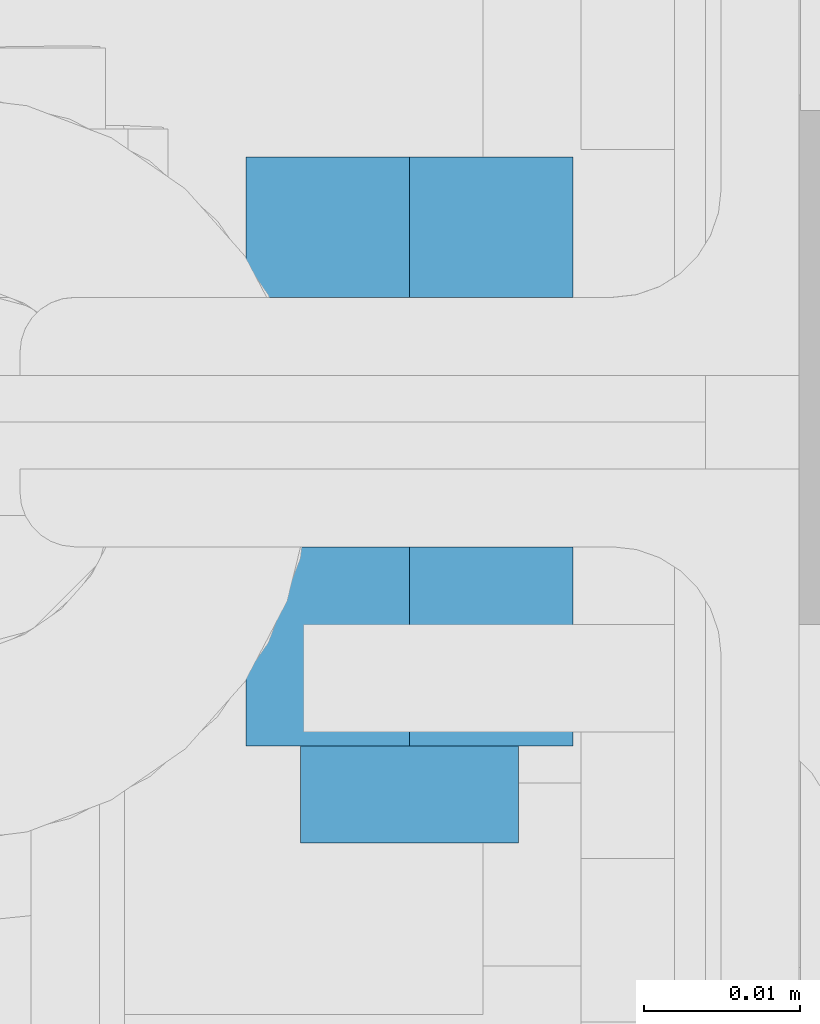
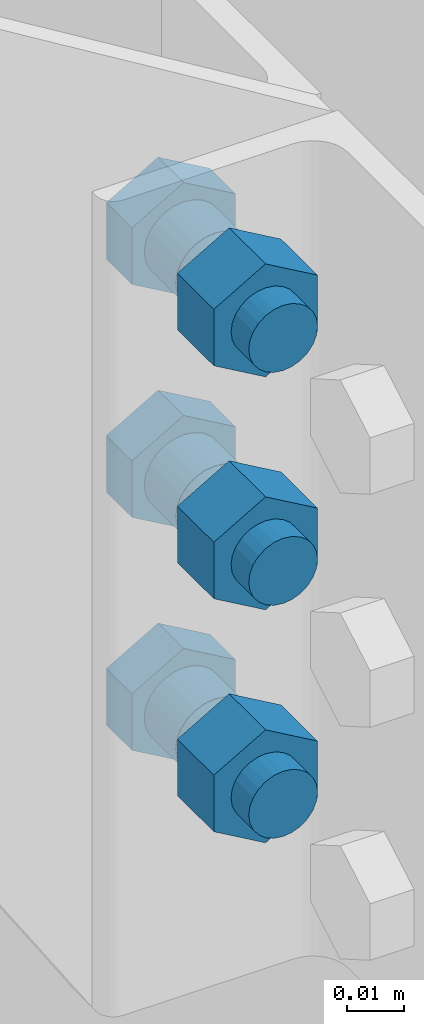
# One storey, part 13 of 21: 1 mechanical fastener.
"""IFC2X3 building model written with IfcOpenShell, lengths in millimetres."""

from ifc_helpers import new_model, si_unit, frame, origin_with_axes, place, context, project, spatial, faceted_brep, element, save


model = new_model("IFC2X3")

# Units and contexts
model_context_1 = context("Model", 3, precision=1e-05, world=origin_with_axes(), identifier="Body")
model_context_2 = context("Model", 3, precision=1e-05, world=origin_with_axes())
ifc_project = project(units=[si_unit("LENGTHUNIT", "METRE", prefix="MILLI"), si_unit("AREAUNIT", "SQUARE_METRE"), si_unit("VOLUMEUNIT", "CUBIC_METRE"), si_unit("MASSUNIT", "GRAM", prefix="KILO"), si_unit("TIMEUNIT", "SECOND"), si_unit("PLANEANGLEUNIT", "RADIAN"), si_unit("SOLIDANGLEUNIT", "STERADIAN"), si_unit("THERMODYNAMICTEMPERATUREUNIT", "DEGREE_CELSIUS"), si_unit("LUMINOUSINTENSITYUNIT", "LUMEN")], contexts=[model_context_1, model_context_2])

# Site, building, storey
site_placement = place(None, origin_with_axes())
site = spatial("IfcSite", under=ifc_project, at=site_placement, Name="Undefined", CompositionType="ELEMENT")
building_placement = place(site_placement, origin_with_axes())
building = spatial("IfcBuilding", under=site, at=building_placement, Name="Undefined", CompositionType="ELEMENT")
storey_placement = place(building_placement, origin_with_axes())
storey = spatial("IfcBuildingStorey", under=building, at=storey_placement, Name="Undefined", CompositionType="ELEMENT")

# Mechanical fastener
mechanical_fastener_placement = place(storey_placement, frame((-29.700001, -44.002519, 94.970416), z_axis=(-1.0, 0.0, 4.8148249e-35), x_axis=(1.2899234e-13, 3.1900003e-05, -1.0)))
element("IfcMechanicalFastener", 1, at=mechanical_fastener_placement, inside=storey, Name="Bolt assembly", NominalDiameter=14.0, NominalLength=35.0, context=model_context_1, shape_type="Brep", body=[
    faceted_brep([(12.124356, 10.997454, 0.0), (6.0621778, 10.997454, 10.5), (-6.0621778, 10.997454, 10.5), (-12.124356, 10.997454, 0.0), (-6.0621778, 10.997454, -10.5), (6.0621778, 10.997454, -10.5), (6.0621778, 19.997454, -10.5), (-6.0621778, 19.997454, -10.5), (-12.124356, 19.997454, 0.0), (-6.0621778, 19.997454, 10.5), (6.0621778, 19.997454, 10.5), (12.124356, 19.997454, 0.0), (7.0, 19.997454, 0.0), (6.7614808, 19.997454, 1.8117333), (6.0621778, 19.997454, 3.5), (4.9497475, 19.997454, 4.9497475), (3.5, 19.997454, 6.0621778), (1.8117333, 19.997454, 6.7614808), (-7.2543519e-13, 19.997454, 7.0), (-1.8117333, 19.997454, 6.7614808), (-3.5, 19.997454, 6.0621778), (-4.9497475, 19.997454, 4.9497475), (-6.0621778, 19.997454, 3.5), (-6.7614808, 19.997454, 1.8117333), (-7.0, 19.997454, -1.4508704e-12), (-6.7614808, 19.997454, -1.8117333), (-6.0621778, 19.997454, -3.5), (-4.9497475, 19.997454, -4.9497475), (-3.5, 19.997454, -6.0621778), (-1.8117333, 19.997454, -6.7614808), (2.168534e-12, 19.997454, -7.0), (1.8117333, 19.997454, -6.7614808), (3.5, 19.997454, -6.0621778), (4.9497475, 19.997454, -4.9497475), (6.0621778, 19.997454, -3.5), (6.7614808, 19.997454, -1.8117333), (6.7614808, 54.997454, -1.8117333), (6.0621778, 54.997454, -3.5), (4.9497475, 54.997454, -4.9497475), (3.5, 54.997454, -6.0621778), (1.8117333, 54.997454, -6.7614808), (2.168534e-12, 54.997454, -7.0), (-1.8117333, 54.997454, -6.7614808), (-3.5, 54.997454, -6.0621778), (-4.9497475, 54.997454, -4.9497475), (-6.0621778, 54.997454, -3.5), (-6.7614808, 54.997454, -1.8117333), (-7.0, 54.997454, -1.4508704e-12), (-6.7614808, 54.997454, 1.8117333), (-6.0621778, 54.997454, 3.5), (-4.9497475, 54.997454, 4.9497475), (-3.5, 54.997454, 6.0621778), (-1.8117333, 54.997454, 6.7614808), (-7.2543519e-13, 54.997454, 7.0), (1.8117333, 54.997454, 6.7614808), (3.5, 54.997454, 6.0621778), (4.9497475, 54.997454, 4.9497475), (6.0621778, 54.997454, 3.5), (6.7614808, 54.997454, 1.8117333), (7.0, 54.997454, 0.0), (12.124356, 35.997453, 0.0), (6.0621778, 35.997453, 10.5), (-6.0621778, 35.997453, 10.5), (-12.124356, 35.997453, 0.0), (-6.0621778, 35.997453, -10.5), (6.0621778, 35.997453, -10.5), (6.0621778, 48.797454, -10.5), (-6.0621778, 48.797454, -10.5), (-12.124356, 48.797454, 0.0), (-6.0621778, 48.797454, 10.5), (6.0621778, 48.797454, 10.5), (12.124356, 48.797454, 0.0), (62.124356, 10.997454, 0.0), (56.062178, 10.997454, 10.5), (43.937822, 10.997454, 10.5), (37.875644, 10.997454, 0.0), (43.937822, 10.997454, -10.5), (56.062178, 10.997454, -10.5), (56.062178, 19.997454, -10.5), (43.937822, 19.997454, -10.5), (37.875644, 19.997454, 0.0), (43.937822, 19.997454, 10.5), (56.062178, 19.997454, 10.5), (62.124356, 19.997454, 0.0), (57.0, 19.997454, 0.0), (56.761481, 19.997454, 1.8117333), (56.062178, 19.997454, 3.5), (54.949747, 19.997454, 4.9497475), (53.5, 19.997454, 6.0621778), (51.811733, 19.997454, 6.7614808), (50.0, 19.997454, 7.0), (48.188267, 19.997454, 6.7614808), (46.5, 19.997454, 6.0621778), (45.050253, 19.997454, 4.9497475), (43.937822, 19.997454, 3.5), (43.238519, 19.997454, 1.8117333), (43.0, 19.997454, -1.4508704e-12), (43.238519, 19.997454, -1.8117333), (43.937822, 19.997454, -3.5), (45.050253, 19.997454, -4.9497475), (46.5, 19.997454, -6.0621778), (48.188267, 19.997454, -6.7614808), (50.0, 19.997454, -7.0), (51.811733, 19.997454, -6.7614808), (53.5, 19.997454, -6.0621778), (54.949747, 19.997454, -4.9497475), (56.062178, 19.997454, -3.5), (56.761481, 19.997454, -1.8117333), (56.761481, 54.997454, -1.8117333), (56.062178, 54.997454, -3.5), (54.949747, 54.997454, -4.9497475), (53.5, 54.997454, -6.0621778), (51.811733, 54.997454, -6.7614808), (50.0, 54.997454, -7.0), (48.188267, 54.997454, -6.7614808), (46.5, 54.997454, -6.0621778), (45.050253, 54.997454, -4.9497475), (43.937822, 54.997454, -3.5), (43.238519, 54.997454, -1.8117333), (43.0, 54.997454, -1.4508704e-12), (43.238519, 54.997454, 1.8117333), (43.937822, 54.997454, 3.5), (45.050253, 54.997454, 4.9497475), (46.5, 54.997454, 6.0621778), (48.188267, 54.997454, 6.7614808), (50.0, 54.997454, 7.0), (51.811733, 54.997454, 6.7614808), (53.5, 54.997454, 6.0621778), (54.949747, 54.997454, 4.9497475), (56.062178, 54.997454, 3.5), (56.761481, 54.997454, 1.8117333), (57.0, 54.997454, 0.0), (62.124356, 35.997453, 0.0), (56.062178, 35.997453, 10.5), (43.937822, 35.997453, 10.5), (37.875644, 35.997453, 0.0), (43.937822, 35.997453, -10.5), (56.062178, 35.997453, -10.5), (56.062178, 48.797454, -10.5), (43.937822, 48.797454, -10.5), (37.875644, 48.797454, 0.0), (43.937822, 48.797454, 10.5), (56.062178, 48.797454, 10.5), (62.124356, 48.797454, 0.0), (112.12436, 10.997454, 0.0), (106.06218, 10.997454, 10.5), (93.937822, 10.997454, 10.5), (87.875644, 10.997454, 0.0), (93.937822, 10.997454, -10.5), (106.06218, 10.997454, -10.5), (106.06218, 19.997454, -10.5), (93.937822, 19.997454, -10.5), (87.875644, 19.997454, 0.0), (93.937822, 19.997454, 10.5), (106.06218, 19.997454, 10.5), (112.12436, 19.997454, 0.0), (107.0, 19.997454, 0.0), (106.76148, 19.997454, 1.8117333), (106.06218, 19.997454, 3.5), (104.94975, 19.997454, 4.9497475), (103.5, 19.997454, 6.0621778), (101.81173, 19.997454, 6.7614808), (100.0, 19.997454, 7.0), (98.188267, 19.997454, 6.7614808), (96.5, 19.997454, 6.0621778), (95.050253, 19.997454, 4.9497475), (93.937822, 19.997454, 3.5), (93.238519, 19.997454, 1.8117333), (93.0, 19.997454, -1.4508704e-12), (93.238519, 19.997454, -1.8117333), (93.937822, 19.997454, -3.5), (95.050253, 19.997454, -4.9497475), (96.5, 19.997454, -6.0621778), (98.188267, 19.997454, -6.7614808), (100.0, 19.997454, -7.0), (101.81173, 19.997454, -6.7614808), (103.5, 19.997454, -6.0621778), (104.94975, 19.997454, -4.9497475), (106.06218, 19.997454, -3.5), (106.76148, 19.997454, -1.8117333), (106.76148, 54.997454, -1.8117333), (106.06218, 54.997454, -3.5), (104.94975, 54.997454, -4.9497475), (103.5, 54.997454, -6.0621778), (101.81173, 54.997454, -6.7614808), (100.0, 54.997454, -7.0), (98.188267, 54.997454, -6.7614808), (96.5, 54.997454, -6.0621778), (95.050253, 54.997454, -4.9497475), (93.937822, 54.997454, -3.5), (93.238519, 54.997454, -1.8117333), (93.0, 54.997454, -1.4508704e-12), (93.238519, 54.997454, 1.8117333), (93.937822, 54.997454, 3.5), (95.050253, 54.997454, 4.9497475), (96.5, 54.997454, 6.0621778), (98.188267, 54.997454, 6.7614808), (100.0, 54.997454, 7.0), (101.81173, 54.997454, 6.7614808), (103.5, 54.997454, 6.0621778), (104.94975, 54.997454, 4.9497475), (106.06218, 54.997454, 3.5), (106.76148, 54.997454, 1.8117333), (107.0, 54.997454, 0.0), (112.12436, 35.997453, 0.0), (106.06218, 35.997453, 10.5), (93.937822, 35.997453, 10.5), (87.875644, 35.997453, 0.0), (93.937822, 35.997453, -10.5), (106.06218, 35.997453, -10.5), (106.06218, 48.797454, -10.5), (93.937822, 48.797454, -10.5), (87.875644, 48.797454, 0.0), (93.937822, 48.797454, 10.5), (106.06218, 48.797454, 10.5), (112.12436, 48.797454, 0.0)], [[[0, 1, 2, 3, 4, 5]], [[6, 7, 8, 9, 10, 11]], [[0, 11, 10, 1]], [[1, 10, 9, 2]], [[2, 9, 8, 3]], [[3, 8, 7, 4]], [[4, 7, 6, 5]], [[5, 6, 11, 0]], [[12, 13, 14, 15, 16, 17, 18, 19, 20, 21, 22, 23, 24, 25, 26, 27, 28, 29, 30, 31, 32, 33, 34, 35]], [[36, 37, 38, 39, 40, 41, 42, 43, 44, 45, 46, 47, 48, 49, 50, 51, 52, 53, 54, 55, 56, 57, 58, 59]], [[12, 59, 58, 13]], [[13, 58, 57, 14]], [[14, 57, 56, 15]], [[15, 56, 55, 16]], [[16, 55, 54, 17]], [[17, 54, 53, 18]], [[18, 53, 52, 19]], [[19, 52, 51, 20]], [[20, 51, 50, 21]], [[21, 50, 49, 22]], [[22, 49, 48, 23]], [[23, 48, 47, 24]], [[24, 47, 46, 25]], [[25, 46, 45, 26]], [[26, 45, 44, 27]], [[27, 44, 43, 28]], [[28, 43, 42, 29]], [[29, 42, 41, 30]], [[30, 41, 40, 31]], [[31, 40, 39, 32]], [[32, 39, 38, 33]], [[33, 38, 37, 34]], [[34, 37, 36, 35]], [[35, 36, 59, 12]], [[60, 61, 62, 63, 64, 65]], [[66, 67, 68, 69, 70, 71]], [[60, 71, 70, 61]], [[61, 70, 69, 62]], [[62, 69, 68, 63]], [[63, 68, 67, 64]], [[64, 67, 66, 65]], [[65, 66, 71, 60]], [[72, 73, 74, 75, 76, 77]], [[78, 79, 80, 81, 82, 83]], [[72, 83, 82, 73]], [[73, 82, 81, 74]], [[74, 81, 80, 75]], [[75, 80, 79, 76]], [[76, 79, 78, 77]], [[77, 78, 83, 72]], [[84, 85, 86, 87, 88, 89, 90, 91, 92, 93, 94, 95, 96, 97, 98, 99, 100, 101, 102, 103, 104, 105, 106, 107]], [[108, 109, 110, 111, 112, 113, 114, 115, 116, 117, 118, 119, 120, 121, 122, 123, 124, 125, 126, 127, 128, 129, 130, 131]], [[84, 131, 130, 85]], [[85, 130, 129, 86]], [[86, 129, 128, 87]], [[87, 128, 127, 88]], [[88, 127, 126, 89]], [[89, 126, 125, 90]], [[90, 125, 124, 91]], [[91, 124, 123, 92]], [[92, 123, 122, 93]], [[93, 122, 121, 94]], [[94, 121, 120, 95]], [[95, 120, 119, 96]], [[96, 119, 118, 97]], [[97, 118, 117, 98]], [[98, 117, 116, 99]], [[99, 116, 115, 100]], [[100, 115, 114, 101]], [[101, 114, 113, 102]], [[102, 113, 112, 103]], [[103, 112, 111, 104]], [[104, 111, 110, 105]], [[105, 110, 109, 106]], [[106, 109, 108, 107]], [[107, 108, 131, 84]], [[132, 133, 134, 135, 136, 137]], [[138, 139, 140, 141, 142, 143]], [[132, 143, 142, 133]], [[133, 142, 141, 134]], [[134, 141, 140, 135]], [[135, 140, 139, 136]], [[136, 139, 138, 137]], [[137, 138, 143, 132]], [[144, 145, 146, 147, 148, 149]], [[150, 151, 152, 153, 154, 155]], [[144, 155, 154, 145]], [[145, 154, 153, 146]], [[146, 153, 152, 147]], [[147, 152, 151, 148]], [[148, 151, 150, 149]], [[149, 150, 155, 144]], [[156, 157, 158, 159, 160, 161, 162, 163, 164, 165, 166, 167, 168, 169, 170, 171, 172, 173, 174, 175, 176, 177, 178, 179]], [[180, 181, 182, 183, 184, 185, 186, 187, 188, 189, 190, 191, 192, 193, 194, 195, 196, 197, 198, 199, 200, 201, 202, 203]], [[156, 203, 202, 157]], [[157, 202, 201, 158]], [[158, 201, 200, 159]], [[159, 200, 199, 160]], [[160, 199, 198, 161]], [[161, 198, 197, 162]], [[162, 197, 196, 163]], [[163, 196, 195, 164]], [[164, 195, 194, 165]], [[165, 194, 193, 166]], [[166, 193, 192, 167]], [[167, 192, 191, 168]], [[168, 191, 190, 169]], [[169, 190, 189, 170]], [[170, 189, 188, 171]], [[171, 188, 187, 172]], [[172, 187, 186, 173]], [[173, 186, 185, 174]], [[174, 185, 184, 175]], [[175, 184, 183, 176]], [[176, 183, 182, 177]], [[177, 182, 181, 178]], [[178, 181, 180, 179]], [[179, 180, 203, 156]], [[204, 205, 206, 207, 208, 209]], [[210, 211, 212, 213, 214, 215]], [[204, 215, 214, 205]], [[205, 214, 213, 206]], [[206, 213, 212, 207]], [[207, 212, 211, 208]], [[208, 211, 210, 209]], [[209, 210, 215, 204]]]),
    faceted_brep([(8.0, 24.997485, 0.0), (7.7274066, 24.997485, 2.0705524), (6.9282032, 24.997485, 4.0), (5.6568542, 24.997485, 5.6568542), (4.0, 24.997485, 6.9282032), (2.0705524, 24.997485, 7.7274066), (-8.2906879e-13, 24.997485, 8.0), (-2.0705524, 24.997485, 7.7274066), (-4.0, 24.997485, 6.9282032), (-5.6568542, 24.997485, 5.6568542), (-6.9282032, 24.997485, 4.0), (-7.7274066, 24.997485, 2.0705524), (-8.0, 24.997485, -1.6581376e-12), (-7.7274066, 24.997485, -2.0705524), (-6.9282032, 24.997485, -4.0), (-5.6568542, 24.997485, -5.6568542), (-4.0, 24.997485, -6.9282032), (-2.0705524, 24.997485, -7.7274066), (2.4783246e-12, 24.997485, -8.0), (2.0705524, 24.997485, -7.7274066), (4.0, 24.997485, -6.9282032), (5.6568542, 24.997485, -5.6568542), (6.9282032, 24.997485, -4.0), (7.7274066, 24.997485, -2.0705524), (7.7274066, 30.997485, -2.0705524), (6.9282032, 30.997485, -4.0), (5.6568542, 30.997485, -5.6568542), (4.0, 30.997485, -6.9282032), (2.0705524, 30.997485, -7.7274066), (2.4783246e-12, 30.997485, -8.0), (-2.0705524, 30.997485, -7.7274066), (-4.0, 30.997485, -6.9282032), (-5.6568542, 30.997485, -5.6568542), (-6.9282032, 30.997485, -4.0), (-7.7274066, 30.997485, -2.0705524), (-8.0, 30.997485, -1.6581376e-12), (-7.7274066, 30.997485, 2.0705524), (-6.9282032, 30.997485, 4.0), (-5.6568542, 30.997485, 5.6568542), (-4.0, 30.997485, 6.9282032), (-2.0705524, 30.997485, 7.7274066), (-8.2906879e-13, 30.997485, 8.0), (2.0705524, 30.997485, 7.7274066), (4.0, 30.997485, 6.9282032), (5.6568542, 30.997485, 5.6568542), (6.9282032, 30.997485, 4.0), (7.7274066, 30.997485, 2.0705524), (8.0, 30.997485, 0.0), (8.0, 31.097453, 0.0), (7.7274066, 31.097453, 2.0705524), (6.9282032, 31.097453, 4.0), (5.6568542, 31.097453, 5.6568542), (4.0, 31.097453, 6.9282032), (2.0705524, 31.097453, 7.7274066), (-8.2906879e-13, 31.097453, 8.0), (-2.0705524, 31.097453, 7.7274066), (-4.0, 31.097453, 6.9282032), (-5.6568542, 31.097453, 5.6568542), (-6.9282032, 31.097453, 4.0), (-7.7274066, 31.097453, 2.0705524), (-8.0, 31.097453, -1.6581376e-12), (-7.7274066, 31.097453, -2.0705524), (-6.9282032, 31.097453, -4.0), (-5.6568542, 31.097453, -5.6568542), (-4.0, 31.097453, -6.9282032), (-2.0705524, 31.097453, -7.7274066), (2.4783246e-12, 31.097453, -8.0), (2.0705524, 31.097453, -7.7274066), (4.0, 31.097453, -6.9282032), (5.6568542, 31.097453, -5.6568542), (6.9282032, 31.097453, -4.0), (7.7274066, 31.097453, -2.0705524), (7.7274066, 36.097453, -2.0705524), (6.9282032, 36.097453, -4.0), (5.6568542, 36.097453, -5.6568542), (4.0, 36.097453, -6.9282032), (2.0705524, 36.097453, -7.7274066), (2.4783246e-12, 36.097453, -8.0), (-2.0705524, 36.097453, -7.7274066), (-4.0, 36.097453, -6.9282032), (-5.6568542, 36.097453, -5.6568542), (-6.9282032, 36.097453, -4.0), (-7.7274066, 36.097453, -2.0705524), (-8.0, 36.097453, -1.6581376e-12), (-7.7274066, 36.097453, 2.0705524), (-6.9282032, 36.097453, 4.0), (-5.6568542, 36.097453, 5.6568542), (-4.0, 36.097453, 6.9282032), (-2.0705524, 36.097453, 7.7274066), (-8.2906879e-13, 36.097453, 8.0), (2.0705524, 36.097453, 7.7274066), (4.0, 36.097453, 6.9282032), (5.6568542, 36.097453, 5.6568542), (6.9282032, 36.097453, 4.0), (7.7274066, 36.097453, 2.0705524), (8.0, 36.097453, 0.0), (8.0, 19.897454, 0.0), (7.7274066, 19.897454, 2.0705524), (6.9282032, 19.897454, 4.0), (5.6568542, 19.897454, 5.6568542), (4.0, 19.897454, 6.9282032), (2.0705524, 19.897454, 7.7274066), (-8.2906879e-13, 19.897454, 8.0), (-2.0705524, 19.897454, 7.7274066), (-4.0, 19.897454, 6.9282032), (-5.6568542, 19.897454, 5.6568542), (-6.9282032, 19.897454, 4.0), (-7.7274066, 19.897454, 2.0705524), (-8.0, 19.897454, -1.6581376e-12), (-7.7274066, 19.897454, -2.0705524), (-6.9282032, 19.897454, -4.0), (-5.6568542, 19.897454, -5.6568542), (-4.0, 19.897454, -6.9282032), (-2.0705524, 19.897454, -7.7274066), (2.4783246e-12, 19.897454, -8.0), (2.0705524, 19.897454, -7.7274066), (4.0, 19.897454, -6.9282032), (5.6568542, 19.897454, -5.6568542), (6.9282032, 19.897454, -4.0), (7.7274066, 19.897454, -2.0705524), (7.7274066, 24.997454, -2.0705524), (6.9282032, 24.997454, -4.0), (5.6568542, 24.997454, -5.6568542), (4.0, 24.997454, -6.9282032), (2.0705524, 24.997454, -7.7274066), (2.4783246e-12, 24.997454, -8.0), (-2.0705524, 24.997454, -7.7274066), (-4.0, 24.997454, -6.9282032), (-5.6568542, 24.997454, -5.6568542), (-6.9282032, 24.997454, -4.0), (-7.7274066, 24.997454, -2.0705524), (-8.0, 24.997454, -1.6581376e-12), (-7.7274066, 24.997454, 2.0705524), (-6.9282032, 24.997454, 4.0), (-5.6568542, 24.997454, 5.6568542), (-4.0, 24.997454, 6.9282032), (-2.0705524, 24.997454, 7.7274066), (-8.2906879e-13, 24.997454, 8.0), (2.0705524, 24.997454, 7.7274066), (4.0, 24.997454, 6.9282032), (5.6568542, 24.997454, 5.6568542), (6.9282032, 24.997454, 4.0), (7.7274066, 24.997454, 2.0705524), (8.0, 24.997454, 0.0), (58.0, 24.997485, 0.0), (57.727407, 24.997485, 2.0705524), (56.928203, 24.997485, 4.0), (55.656854, 24.997485, 5.6568542), (54.0, 24.997485, 6.9282032), (52.070552, 24.997485, 7.7274066), (50.0, 24.997485, 8.0), (47.929448, 24.997485, 7.7274066), (46.0, 24.997485, 6.9282032), (44.343146, 24.997485, 5.6568542), (43.071797, 24.997485, 4.0), (42.272593, 24.997485, 2.0705524), (42.0, 24.997485, -1.6581376e-12), (42.272593, 24.997485, -2.0705524), (43.071797, 24.997485, -4.0), (44.343146, 24.997485, -5.6568542), (46.0, 24.997485, -6.9282032), (47.929448, 24.997485, -7.7274066), (50.0, 24.997485, -8.0), (52.070552, 24.997485, -7.7274066), (54.0, 24.997485, -6.9282032), (55.656854, 24.997485, -5.6568542), (56.928203, 24.997485, -4.0), (57.727407, 24.997485, -2.0705524), (57.727407, 30.997485, -2.0705524), (56.928203, 30.997485, -4.0), (55.656854, 30.997485, -5.6568542), (54.0, 30.997485, -6.9282032), (52.070552, 30.997485, -7.7274066), (50.0, 30.997485, -8.0), (47.929448, 30.997485, -7.7274066), (46.0, 30.997485, -6.9282032), (44.343146, 30.997485, -5.6568542), (43.071797, 30.997485, -4.0), (42.272593, 30.997485, -2.0705524), (42.0, 30.997485, -1.6581376e-12), (42.272593, 30.997485, 2.0705524), (43.071797, 30.997485, 4.0), (44.343146, 30.997485, 5.6568542), (46.0, 30.997485, 6.9282032), (47.929448, 30.997485, 7.7274066), (50.0, 30.997485, 8.0), (52.070552, 30.997485, 7.7274066), (54.0, 30.997485, 6.9282032), (55.656854, 30.997485, 5.6568542), (56.928203, 30.997485, 4.0), (57.727407, 30.997485, 2.0705524), (58.0, 30.997485, 0.0), (58.0, 31.097453, 0.0), (57.727407, 31.097453, 2.0705524), (56.928203, 31.097453, 4.0), (55.656854, 31.097453, 5.6568542), (54.0, 31.097453, 6.9282032), (52.070552, 31.097453, 7.7274066), (50.0, 31.097453, 8.0), (47.929448, 31.097453, 7.7274066), (46.0, 31.097453, 6.9282032), (44.343146, 31.097453, 5.6568542), (43.071797, 31.097453, 4.0), (42.272593, 31.097453, 2.0705524), (42.0, 31.097453, -1.6581376e-12), (42.272593, 31.097453, -2.0705524), (43.071797, 31.097453, -4.0), (44.343146, 31.097453, -5.6568542), (46.0, 31.097453, -6.9282032), (47.929448, 31.097453, -7.7274066), (50.0, 31.097453, -8.0), (52.070552, 31.097453, -7.7274066), (54.0, 31.097453, -6.9282032), (55.656854, 31.097453, -5.6568542), (56.928203, 31.097453, -4.0), (57.727407, 31.097453, -2.0705524), (57.727407, 36.097453, -2.0705524), (56.928203, 36.097453, -4.0), (55.656854, 36.097453, -5.6568542), (54.0, 36.097453, -6.9282032), (52.070552, 36.097453, -7.7274066), (50.0, 36.097453, -8.0), (47.929448, 36.097453, -7.7274066), (46.0, 36.097453, -6.9282032), (44.343146, 36.097453, -5.6568542), (43.071797, 36.097453, -4.0), (42.272593, 36.097453, -2.0705524), (42.0, 36.097453, -1.6581376e-12), (42.272593, 36.097453, 2.0705524), (43.071797, 36.097453, 4.0), (44.343146, 36.097453, 5.6568542), (46.0, 36.097453, 6.9282032), (47.929448, 36.097453, 7.7274066), (50.0, 36.097453, 8.0), (52.070552, 36.097453, 7.7274066), (54.0, 36.097453, 6.9282032), (55.656854, 36.097453, 5.6568542), (56.928203, 36.097453, 4.0), (57.727407, 36.097453, 2.0705524), (58.0, 36.097453, 0.0), (58.0, 19.897454, 0.0), (57.727407, 19.897454, 2.0705524), (56.928203, 19.897454, 4.0), (55.656854, 19.897454, 5.6568542), (54.0, 19.897454, 6.9282032), (52.070552, 19.897454, 7.7274066), (50.0, 19.897454, 8.0), (47.929448, 19.897454, 7.7274066), (46.0, 19.897454, 6.9282032), (44.343146, 19.897454, 5.6568542), (43.071797, 19.897454, 4.0), (42.272593, 19.897454, 2.0705524), (42.0, 19.897454, -1.6581376e-12), (42.272593, 19.897454, -2.0705524), (43.071797, 19.897454, -4.0), (44.343146, 19.897454, -5.6568542), (46.0, 19.897454, -6.9282032), (47.929448, 19.897454, -7.7274066), (50.0, 19.897454, -8.0), (52.070552, 19.897454, -7.7274066), (54.0, 19.897454, -6.9282032), (55.656854, 19.897454, -5.6568542), (56.928203, 19.897454, -4.0), (57.727407, 19.897454, -2.0705524), (57.727407, 24.997454, -2.0705524), (56.928203, 24.997454, -4.0), (55.656854, 24.997454, -5.6568542), (54.0, 24.997454, -6.9282032), (52.070552, 24.997454, -7.7274066), (50.0, 24.997454, -8.0), (47.929448, 24.997454, -7.7274066), (46.0, 24.997454, -6.9282032), (44.343146, 24.997454, -5.6568542), (43.071797, 24.997454, -4.0), (42.272593, 24.997454, -2.0705524), (42.0, 24.997454, -1.6581376e-12), (42.272593, 24.997454, 2.0705524), (43.071797, 24.997454, 4.0), (44.343146, 24.997454, 5.6568542), (46.0, 24.997454, 6.9282032), (47.929448, 24.997454, 7.7274066), (50.0, 24.997454, 8.0), (52.070552, 24.997454, 7.7274066), (54.0, 24.997454, 6.9282032), (55.656854, 24.997454, 5.6568542), (56.928203, 24.997454, 4.0), (57.727407, 24.997454, 2.0705524), (58.0, 24.997454, 0.0), (108.0, 24.997485, 0.0), (107.72741, 24.997485, 2.0705524), (106.9282, 24.997485, 4.0), (105.65685, 24.997485, 5.6568542), (104.0, 24.997485, 6.9282032), (102.07055, 24.997485, 7.7274066), (100.0, 24.997485, 8.0), (97.929448, 24.997485, 7.7274066), (96.0, 24.997485, 6.9282032), (94.343146, 24.997485, 5.6568542), (93.071797, 24.997485, 4.0), (92.272593, 24.997485, 2.0705524), (92.0, 24.997485, -1.6581376e-12), (92.272593, 24.997485, -2.0705524), (93.071797, 24.997485, -4.0), (94.343146, 24.997485, -5.6568542), (96.0, 24.997485, -6.9282032), (97.929448, 24.997485, -7.7274066), (100.0, 24.997485, -8.0), (102.07055, 24.997485, -7.7274066), (104.0, 24.997485, -6.9282032), (105.65685, 24.997485, -5.6568542), (106.9282, 24.997485, -4.0), (107.72741, 24.997485, -2.0705524), (107.72741, 30.997485, -2.0705524), (106.9282, 30.997485, -4.0), (105.65685, 30.997485, -5.6568542), (104.0, 30.997485, -6.9282032), (102.07055, 30.997485, -7.7274066), (100.0, 30.997485, -8.0), (97.929448, 30.997485, -7.7274066), (96.0, 30.997485, -6.9282032), (94.343146, 30.997485, -5.6568542), (93.071797, 30.997485, -4.0), (92.272593, 30.997485, -2.0705524), (92.0, 30.997485, -1.6581376e-12), (92.272593, 30.997485, 2.0705524), (93.071797, 30.997485, 4.0), (94.343146, 30.997485, 5.6568542), (96.0, 30.997485, 6.9282032), (97.929448, 30.997485, 7.7274066), (100.0, 30.997485, 8.0), (102.07055, 30.997485, 7.7274066), (104.0, 30.997485, 6.9282032), (105.65685, 30.997485, 5.6568542), (106.9282, 30.997485, 4.0), (107.72741, 30.997485, 2.0705524), (108.0, 30.997485, 0.0), (108.0, 31.097453, 0.0), (107.72741, 31.097453, 2.0705524), (106.9282, 31.097453, 4.0), (105.65685, 31.097453, 5.6568542), (104.0, 31.097453, 6.9282032), (102.07055, 31.097453, 7.7274066), (100.0, 31.097453, 8.0), (97.929448, 31.097453, 7.7274066), (96.0, 31.097453, 6.9282032), (94.343146, 31.097453, 5.6568542), (93.071797, 31.097453, 4.0), (92.272593, 31.097453, 2.0705524), (92.0, 31.097453, -1.6581376e-12), (92.272593, 31.097453, -2.0705524), (93.071797, 31.097453, -4.0), (94.343146, 31.097453, -5.6568542), (96.0, 31.097453, -6.9282032), (97.929448, 31.097453, -7.7274066), (100.0, 31.097453, -8.0), (102.07055, 31.097453, -7.7274066), (104.0, 31.097453, -6.9282032), (105.65685, 31.097453, -5.6568542), (106.9282, 31.097453, -4.0), (107.72741, 31.097453, -2.0705524), (107.72741, 36.097453, -2.0705524), (106.9282, 36.097453, -4.0), (105.65685, 36.097453, -5.6568542), (104.0, 36.097453, -6.9282032), (102.07055, 36.097453, -7.7274066), (100.0, 36.097453, -8.0), (97.929448, 36.097453, -7.7274066), (96.0, 36.097453, -6.9282032), (94.343146, 36.097453, -5.6568542), (93.071797, 36.097453, -4.0), (92.272593, 36.097453, -2.0705524), (92.0, 36.097453, -1.6581376e-12), (92.272593, 36.097453, 2.0705524), (93.071797, 36.097453, 4.0), (94.343146, 36.097453, 5.6568542), (96.0, 36.097453, 6.9282032), (97.929448, 36.097453, 7.7274066), (100.0, 36.097453, 8.0), (102.07055, 36.097453, 7.7274066), (104.0, 36.097453, 6.9282032), (105.65685, 36.097453, 5.6568542), (106.9282, 36.097453, 4.0), (107.72741, 36.097453, 2.0705524), (108.0, 36.097453, 0.0), (108.0, 19.897454, 0.0), (107.72741, 19.897454, 2.0705524), (106.9282, 19.897454, 4.0), (105.65685, 19.897454, 5.6568542), (104.0, 19.897454, 6.9282032), (102.07055, 19.897454, 7.7274066), (100.0, 19.897454, 8.0), (97.929448, 19.897454, 7.7274066), (96.0, 19.897454, 6.9282032), (94.343146, 19.897454, 5.6568542), (93.071797, 19.897454, 4.0), (92.272593, 19.897454, 2.0705524), (92.0, 19.897454, -1.6581376e-12), (92.272593, 19.897454, -2.0705524), (93.071797, 19.897454, -4.0), (94.343146, 19.897454, -5.6568542), (96.0, 19.897454, -6.9282032), (97.929448, 19.897454, -7.7274066), (100.0, 19.897454, -8.0), (102.07055, 19.897454, -7.7274066), (104.0, 19.897454, -6.9282032), (105.65685, 19.897454, -5.6568542), (106.9282, 19.897454, -4.0), (107.72741, 19.897454, -2.0705524), (107.72741, 24.997454, -2.0705524), (106.9282, 24.997454, -4.0), (105.65685, 24.997454, -5.6568542), (104.0, 24.997454, -6.9282032), (102.07055, 24.997454, -7.7274066), (100.0, 24.997454, -8.0), (97.929448, 24.997454, -7.7274066), (96.0, 24.997454, -6.9282032), (94.343146, 24.997454, -5.6568542), (93.071797, 24.997454, -4.0), (92.272593, 24.997454, -2.0705524), (92.0, 24.997454, -1.6581376e-12), (92.272593, 24.997454, 2.0705524), (93.071797, 24.997454, 4.0), (94.343146, 24.997454, 5.6568542), (96.0, 24.997454, 6.9282032), (97.929448, 24.997454, 7.7274066), (100.0, 24.997454, 8.0), (102.07055, 24.997454, 7.7274066), (104.0, 24.997454, 6.9282032), (105.65685, 24.997454, 5.6568542), (106.9282, 24.997454, 4.0), (107.72741, 24.997454, 2.0705524), (108.0, 24.997454, 0.0)], [[[0, 1, 2, 3, 4, 5, 6, 7, 8, 9, 10, 11, 12, 13, 14, 15, 16, 17, 18, 19, 20, 21, 22, 23]], [[24, 25, 26, 27, 28, 29, 30, 31, 32, 33, 34, 35, 36, 37, 38, 39, 40, 41, 42, 43, 44, 45, 46, 47]], [[0, 47, 46, 1]], [[1, 46, 45, 2]], [[2, 45, 44, 3]], [[3, 44, 43, 4]], [[4, 43, 42, 5]], [[5, 42, 41, 6]], [[6, 41, 40, 7]], [[7, 40, 39, 8]], [[8, 39, 38, 9]], [[9, 38, 37, 10]], [[10, 37, 36, 11]], [[11, 36, 35, 12]], [[12, 35, 34, 13]], [[13, 34, 33, 14]], [[14, 33, 32, 15]], [[15, 32, 31, 16]], [[16, 31, 30, 17]], [[17, 30, 29, 18]], [[18, 29, 28, 19]], [[19, 28, 27, 20]], [[20, 27, 26, 21]], [[21, 26, 25, 22]], [[22, 25, 24, 23]], [[23, 24, 47, 0]], [[48, 49, 50, 51, 52, 53, 54, 55, 56, 57, 58, 59, 60, 61, 62, 63, 64, 65, 66, 67, 68, 69, 70, 71]], [[72, 73, 74, 75, 76, 77, 78, 79, 80, 81, 82, 83, 84, 85, 86, 87, 88, 89, 90, 91, 92, 93, 94, 95]], [[48, 95, 94, 49]], [[49, 94, 93, 50]], [[50, 93, 92, 51]], [[51, 92, 91, 52]], [[52, 91, 90, 53]], [[53, 90, 89, 54]], [[54, 89, 88, 55]], [[55, 88, 87, 56]], [[56, 87, 86, 57]], [[57, 86, 85, 58]], [[58, 85, 84, 59]], [[59, 84, 83, 60]], [[60, 83, 82, 61]], [[61, 82, 81, 62]], [[62, 81, 80, 63]], [[63, 80, 79, 64]], [[64, 79, 78, 65]], [[65, 78, 77, 66]], [[66, 77, 76, 67]], [[67, 76, 75, 68]], [[68, 75, 74, 69]], [[69, 74, 73, 70]], [[70, 73, 72, 71]], [[71, 72, 95, 48]], [[96, 97, 98, 99, 100, 101, 102, 103, 104, 105, 106, 107, 108, 109, 110, 111, 112, 113, 114, 115, 116, 117, 118, 119]], [[120, 121, 122, 123, 124, 125, 126, 127, 128, 129, 130, 131, 132, 133, 134, 135, 136, 137, 138, 139, 140, 141, 142, 143]], [[96, 143, 142, 97]], [[97, 142, 141, 98]], [[98, 141, 140, 99]], [[99, 140, 139, 100]], [[100, 139, 138, 101]], [[101, 138, 137, 102]], [[102, 137, 136, 103]], [[103, 136, 135, 104]], [[104, 135, 134, 105]], [[105, 134, 133, 106]], [[106, 133, 132, 107]], [[107, 132, 131, 108]], [[108, 131, 130, 109]], [[109, 130, 129, 110]], [[110, 129, 128, 111]], [[111, 128, 127, 112]], [[112, 127, 126, 113]], [[113, 126, 125, 114]], [[114, 125, 124, 115]], [[115, 124, 123, 116]], [[116, 123, 122, 117]], [[117, 122, 121, 118]], [[118, 121, 120, 119]], [[119, 120, 143, 96]], [[144, 145, 146, 147, 148, 149, 150, 151, 152, 153, 154, 155, 156, 157, 158, 159, 160, 161, 162, 163, 164, 165, 166, 167]], [[168, 169, 170, 171, 172, 173, 174, 175, 176, 177, 178, 179, 180, 181, 182, 183, 184, 185, 186, 187, 188, 189, 190, 191]], [[144, 191, 190, 145]], [[145, 190, 189, 146]], [[146, 189, 188, 147]], [[147, 188, 187, 148]], [[148, 187, 186, 149]], [[149, 186, 185, 150]], [[150, 185, 184, 151]], [[151, 184, 183, 152]], [[152, 183, 182, 153]], [[153, 182, 181, 154]], [[154, 181, 180, 155]], [[155, 180, 179, 156]], [[156, 179, 178, 157]], [[157, 178, 177, 158]], [[158, 177, 176, 159]], [[159, 176, 175, 160]], [[160, 175, 174, 161]], [[161, 174, 173, 162]], [[162, 173, 172, 163]], [[163, 172, 171, 164]], [[164, 171, 170, 165]], [[165, 170, 169, 166]], [[166, 169, 168, 167]], [[167, 168, 191, 144]], [[192, 193, 194, 195, 196, 197, 198, 199, 200, 201, 202, 203, 204, 205, 206, 207, 208, 209, 210, 211, 212, 213, 214, 215]], [[216, 217, 218, 219, 220, 221, 222, 223, 224, 225, 226, 227, 228, 229, 230, 231, 232, 233, 234, 235, 236, 237, 238, 239]], [[192, 239, 238, 193]], [[193, 238, 237, 194]], [[194, 237, 236, 195]], [[195, 236, 235, 196]], [[196, 235, 234, 197]], [[197, 234, 233, 198]], [[198, 233, 232, 199]], [[199, 232, 231, 200]], [[200, 231, 230, 201]], [[201, 230, 229, 202]], [[202, 229, 228, 203]], [[203, 228, 227, 204]], [[204, 227, 226, 205]], [[205, 226, 225, 206]], [[206, 225, 224, 207]], [[207, 224, 223, 208]], [[208, 223, 222, 209]], [[209, 222, 221, 210]], [[210, 221, 220, 211]], [[211, 220, 219, 212]], [[212, 219, 218, 213]], [[213, 218, 217, 214]], [[214, 217, 216, 215]], [[215, 216, 239, 192]], [[240, 241, 242, 243, 244, 245, 246, 247, 248, 249, 250, 251, 252, 253, 254, 255, 256, 257, 258, 259, 260, 261, 262, 263]], [[264, 265, 266, 267, 268, 269, 270, 271, 272, 273, 274, 275, 276, 277, 278, 279, 280, 281, 282, 283, 284, 285, 286, 287]], [[240, 287, 286, 241]], [[241, 286, 285, 242]], [[242, 285, 284, 243]], [[243, 284, 283, 244]], [[244, 283, 282, 245]], [[245, 282, 281, 246]], [[246, 281, 280, 247]], [[247, 280, 279, 248]], [[248, 279, 278, 249]], [[249, 278, 277, 250]], [[250, 277, 276, 251]], [[251, 276, 275, 252]], [[252, 275, 274, 253]], [[253, 274, 273, 254]], [[254, 273, 272, 255]], [[255, 272, 271, 256]], [[256, 271, 270, 257]], [[257, 270, 269, 258]], [[258, 269, 268, 259]], [[259, 268, 267, 260]], [[260, 267, 266, 261]], [[261, 266, 265, 262]], [[262, 265, 264, 263]], [[263, 264, 287, 240]], [[288, 289, 290, 291, 292, 293, 294, 295, 296, 297, 298, 299, 300, 301, 302, 303, 304, 305, 306, 307, 308, 309, 310, 311]], [[312, 313, 314, 315, 316, 317, 318, 319, 320, 321, 322, 323, 324, 325, 326, 327, 328, 329, 330, 331, 332, 333, 334, 335]], [[288, 335, 334, 289]], [[289, 334, 333, 290]], [[290, 333, 332, 291]], [[291, 332, 331, 292]], [[292, 331, 330, 293]], [[293, 330, 329, 294]], [[294, 329, 328, 295]], [[295, 328, 327, 296]], [[296, 327, 326, 297]], [[297, 326, 325, 298]], [[298, 325, 324, 299]], [[299, 324, 323, 300]], [[300, 323, 322, 301]], [[301, 322, 321, 302]], [[302, 321, 320, 303]], [[303, 320, 319, 304]], [[304, 319, 318, 305]], [[305, 318, 317, 306]], [[306, 317, 316, 307]], [[307, 316, 315, 308]], [[308, 315, 314, 309]], [[309, 314, 313, 310]], [[310, 313, 312, 311]], [[311, 312, 335, 288]], [[336, 337, 338, 339, 340, 341, 342, 343, 344, 345, 346, 347, 348, 349, 350, 351, 352, 353, 354, 355, 356, 357, 358, 359]], [[360, 361, 362, 363, 364, 365, 366, 367, 368, 369, 370, 371, 372, 373, 374, 375, 376, 377, 378, 379, 380, 381, 382, 383]], [[336, 383, 382, 337]], [[337, 382, 381, 338]], [[338, 381, 380, 339]], [[339, 380, 379, 340]], [[340, 379, 378, 341]], [[341, 378, 377, 342]], [[342, 377, 376, 343]], [[343, 376, 375, 344]], [[344, 375, 374, 345]], [[345, 374, 373, 346]], [[346, 373, 372, 347]], [[347, 372, 371, 348]], [[348, 371, 370, 349]], [[349, 370, 369, 350]], [[350, 369, 368, 351]], [[351, 368, 367, 352]], [[352, 367, 366, 353]], [[353, 366, 365, 354]], [[354, 365, 364, 355]], [[355, 364, 363, 356]], [[356, 363, 362, 357]], [[357, 362, 361, 358]], [[358, 361, 360, 359]], [[359, 360, 383, 336]], [[384, 385, 386, 387, 388, 389, 390, 391, 392, 393, 394, 395, 396, 397, 398, 399, 400, 401, 402, 403, 404, 405, 406, 407]], [[408, 409, 410, 411, 412, 413, 414, 415, 416, 417, 418, 419, 420, 421, 422, 423, 424, 425, 426, 427, 428, 429, 430, 431]], [[384, 431, 430, 385]], [[385, 430, 429, 386]], [[386, 429, 428, 387]], [[387, 428, 427, 388]], [[388, 427, 426, 389]], [[389, 426, 425, 390]], [[390, 425, 424, 391]], [[391, 424, 423, 392]], [[392, 423, 422, 393]], [[393, 422, 421, 394]], [[394, 421, 420, 395]], [[395, 420, 419, 396]], [[396, 419, 418, 397]], [[397, 418, 417, 398]], [[398, 417, 416, 399]], [[399, 416, 415, 400]], [[400, 415, 414, 401]], [[401, 414, 413, 402]], [[402, 413, 412, 403]], [[403, 412, 411, 404]], [[404, 411, 410, 405]], [[405, 410, 409, 406]], [[406, 409, 408, 407]], [[407, 408, 431, 384]]]),
])

save(model, "model.ifc")
